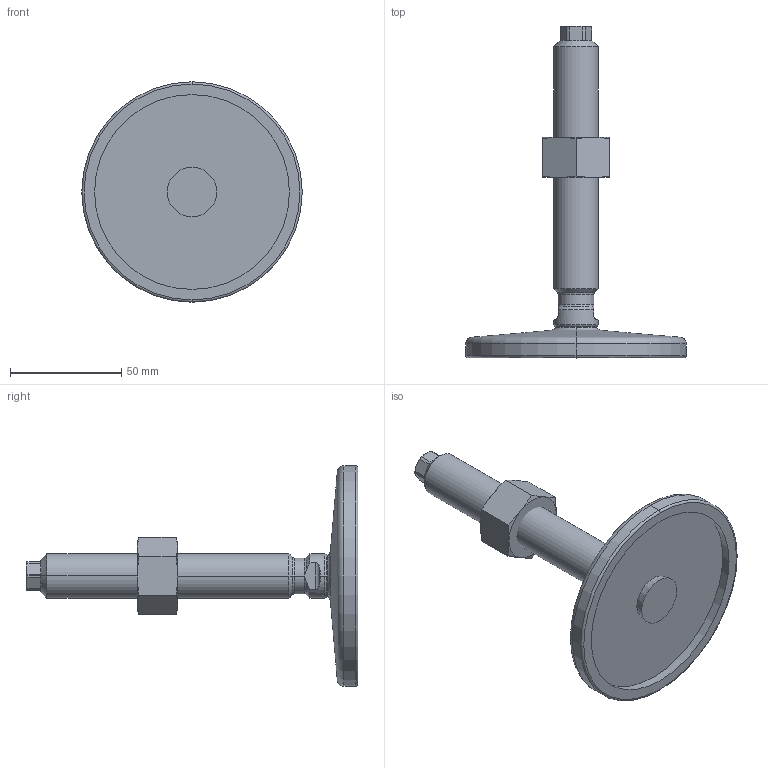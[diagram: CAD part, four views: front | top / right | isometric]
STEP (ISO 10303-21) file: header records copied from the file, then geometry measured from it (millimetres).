
FILE_DESCRIPTION (( 'STEP AP214' ), '1' );
FILE_NAME ('21-100-M20-125-D0-VK.step', '2020-10-02T17:36:58', ( '' ), ( '' ), 'SwSTEP 2.0', 'SolidWorks 2019', '' );
FILE_SCHEMA (( 'AUTOMOTIVE_DESIGN' ));
Length unit declared in the file: millimetre
Products named in the file (4): WB21_Fußteller 21^WB21_V_D0-100-R12-B9 (M20); WB4032^WB21_V_M20; 21-100-M20-125-D0-VK; WB21_Spindel_V^WB21_V_M20-125
Assembly tree (3 placements, depth 2):
  21-100-M20-125-D0-VK
    WB21_Fußteller 21^WB21_V_D0-100-R12-B9 (M20)
    WB21_Spindel_V^WB21_V_M20-125
    WB4032^WB21_V_M20
Bounding box: 99 x 149.02 x 99 mm (x, y, z)
Volume: 103927.6 mm3; surface area: 32618.8 mm2
Topology: 3 solids, 3 shells, 101 faces, 225 edges, 133 vertices
Faces by surface type: cone 33, plane 29, cylinder 25, torus 10, sphere 4
Entity records: 3164 total; most frequent: CARTESIAN_POINT 737, DIRECTION 492, ORIENTED_EDGE 450, EDGE_CURVE 225, AXIS2_PLACEMENT_3D 212, VERTEX_POINT 133, EDGE_LOOP 106, CIRCLE 105
